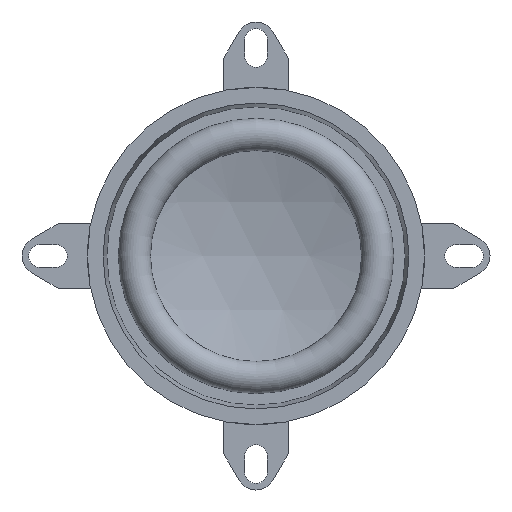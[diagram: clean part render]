
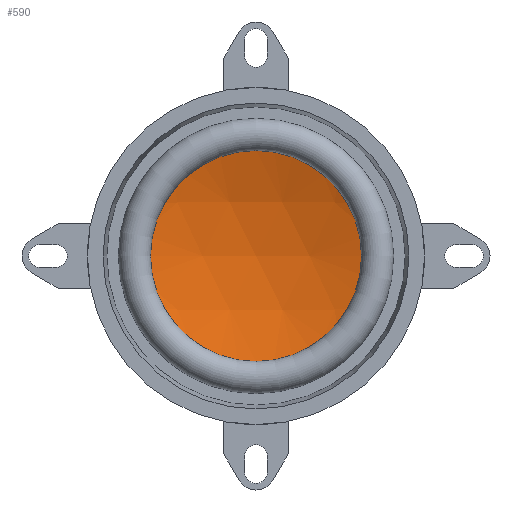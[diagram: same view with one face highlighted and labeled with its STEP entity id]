
A CAD part, front view. The second image highlights one B-rep face of the part: STEP entity #590.
In plain terms, the highlighted spherical face has radius 48.779 mm.
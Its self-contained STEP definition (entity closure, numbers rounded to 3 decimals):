
#25 = FACE_OUTER_BOUND ( 'NONE', #3130, .T. ) ;
#590 = ADVANCED_FACE ( 'NONE', ( #25 ), #1464, .F. ) ;
#597 = EDGE_CURVE ( 'NONE', #1637, #1637, #1502, .T. ) ;
#671 = ORIENTED_EDGE ( 'NONE', *, *, #597, .T. ) ;
#1034 = AXIS2_PLACEMENT_3D ( 'NONE', #3144, #2872, #2261 ) ;
#1373 = CARTESIAN_POINT ( 'NONE',  ( 0., 2.168, -16.266 ) ) ;
#1464 = SPHERICAL_SURFACE ( 'NONE', #1034, 48.779 ) ;
#1502 = CIRCLE ( 'NONE', #3593, 16.266 ) ;
#1637 = VERTEX_POINT ( 'NONE', #1373 ) ;
#2261 = DIRECTION ( 'NONE',  ( 1., 0., 0. ) ) ;
#2318 = DIRECTION ( 'NONE',  ( 0., 0., -1. ) ) ;
#2595 = CARTESIAN_POINT ( 'NONE',  ( 0., 2.168, 0. ) ) ;
#2872 = DIRECTION ( 'NONE',  ( 0., 0., 1. ) ) ;
#3130 = EDGE_LOOP ( 'NONE', ( #671 ) ) ;
#3144 = CARTESIAN_POINT ( 'NONE',  ( 0., -43.819, 0. ) ) ;
#3377 = DIRECTION ( 'NONE',  ( 0., -1., 0. ) ) ;
#3593 = AXIS2_PLACEMENT_3D ( 'NONE', #2595, #3377, #2318 ) ;
